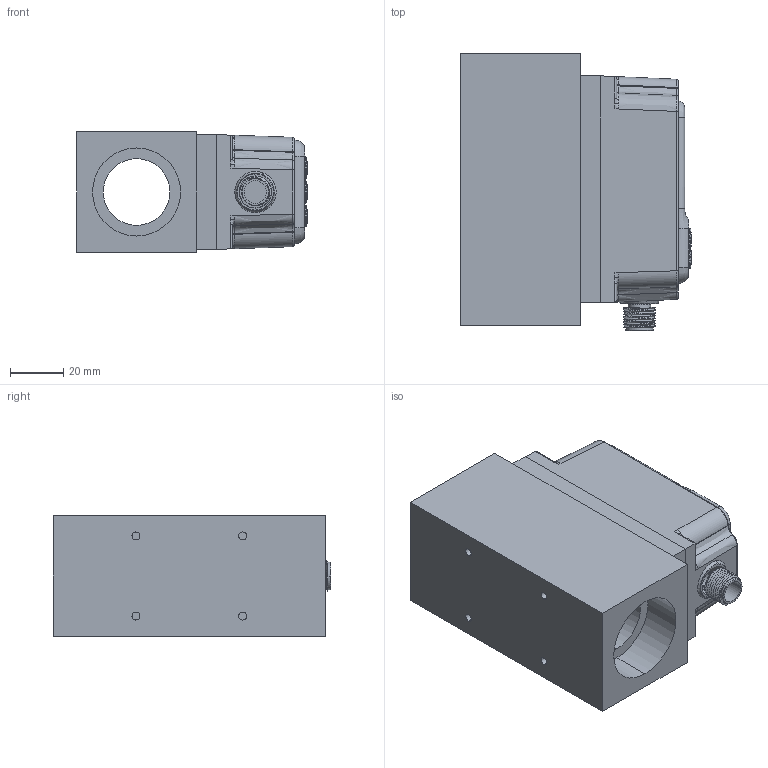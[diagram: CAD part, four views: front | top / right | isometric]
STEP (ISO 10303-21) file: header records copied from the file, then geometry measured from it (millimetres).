
FILE_DESCRIPTION (( 'STEP AP203' ), '1' );
FILE_NAME ('FXN DN25内螺纹塑料盖装配体.STEP', '2026-01-04T01:58:07', ( '' ), ( '' ), 'SwSTEP 2.0', 'SolidWorks 2022', '' );
FILE_SCHEMA (( 'CONFIG_CONTROL_DESIGN' ));
Length unit declared in the file: millimetre
Products named in the file (5): 啣赽; DN25菁釱; 涡街流量计上盖外形; 涡轮盖子和连接铝板装配体20260104; FXN DN25内螺纹塑料盖装配体
Assembly tree (4 placements, depth 3):
  FXN DN25内螺纹塑料盖装配体
    DN25菁釱
    涡轮盖子和连接铝板装配体20260104
      涡街流量计上盖外形
      啣赽
Bounding box: 86.52 x 104.03 x 45 mm (x, y, z)
Volume: 170931.9 mm3; surface area: 60130.1 mm2
Topology: 2 solids, 11 shells, 490 faces, 1233 edges, 792 vertices
Faces by surface type: bspline 218, plane 145, cylinder 119, cone 8
Entity records: 54378 total; most frequent: CARTESIAN_POINT 44255, ORIENTED_EDGE 2437, EDGE_CURVE 1221, DIRECTION 1193, VERTEX_POINT 792, B_SPLINE_CURVE_WITH_KNOTS 682, EDGE_LOOP 533, FACE_OUTER_BOUND 490
